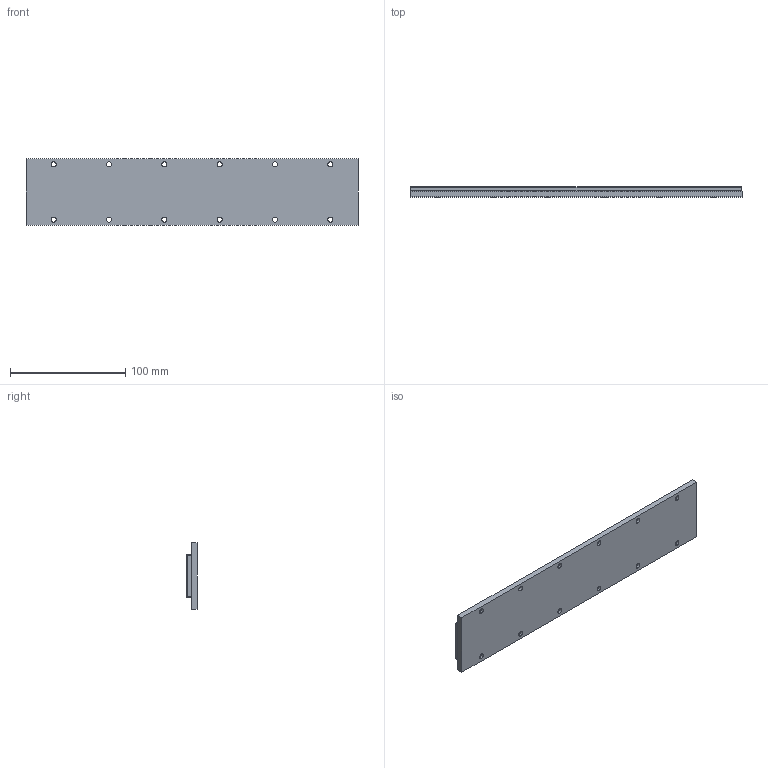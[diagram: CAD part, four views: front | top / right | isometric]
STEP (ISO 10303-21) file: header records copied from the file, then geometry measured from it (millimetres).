
FILE_DESCRIPTION (( 'STEP AP203' ), '1' );
FILE_NAME ('CS288.STEP', '2025-12-28T08:03:06', ( '' ), ( '' ), 'SwSTEP 2.0', 'SolidWorks 2024', '' );
FILE_SCHEMA (( 'CONFIG_CONTROL_DESIGN' ));
Length unit declared in the file: millimetre
Products named in the file (1): CS288
Bounding box: 288 x 8.7 x 58 mm (x, y, z)
Volume: 120073.2 mm3; surface area: 44513.1 mm2
Topology: 1 solids, 1 shells, 113 faces, 272 edges, 176 vertices
Faces by surface type: cylinder 52, plane 49, bspline 12
Entity records: 3651 total; most frequent: CARTESIAN_POINT 870, DIRECTION 556, ORIENTED_EDGE 544, EDGE_CURVE 272, AXIS2_PLACEMENT_3D 206, VERTEX_POINT 176, EDGE_LOOP 152, LINE 144
